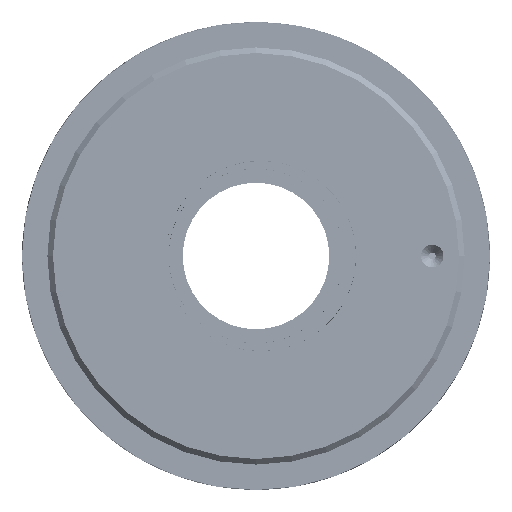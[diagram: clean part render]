
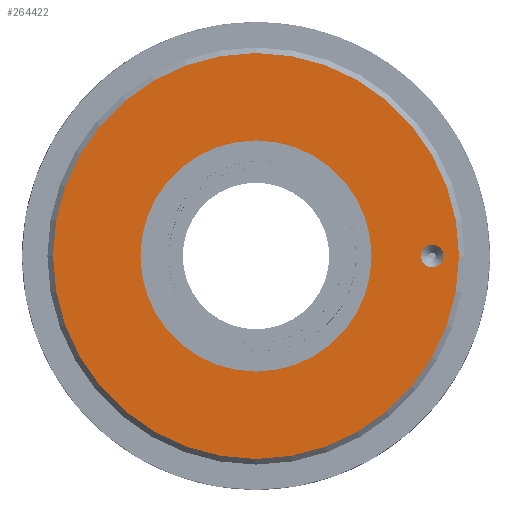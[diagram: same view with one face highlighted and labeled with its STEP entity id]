
A CAD part, left-side view. The second image highlights one B-rep face of the part: STEP entity #264422.
In plain terms, the highlighted planar face has unit normal (-1, 0, 0).
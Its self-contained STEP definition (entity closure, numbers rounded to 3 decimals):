
#182=FACE_BOUND('',#26754,.T.);
#183=FACE_BOUND('',#26755,.T.);
#2422=PLANE('',#280094);
#14247=FACE_OUTER_BOUND('',#26753,.T.);
#26753=EDGE_LOOP('',(#193311));
#26754=EDGE_LOOP('',(#193312));
#26755=EDGE_LOOP('',(#193313));
#106755=CIRCLE('',#280090,41.);
#106757=CIRCLE('',#280095,72.);
#106758=CIRCLE('',#280096,4.);
#116873=VERTEX_POINT('',#382587);
#116874=VERTEX_POINT('',#382596);
#116875=VERTEX_POINT('',#382598);
#145686=EDGE_CURVE('',#116873,#116873,#106755,.T.);
#145690=EDGE_CURVE('',#116874,#116874,#106757,.T.);
#145691=EDGE_CURVE('',#116875,#116875,#106758,.T.);
#193311=ORIENTED_EDGE('',*,*,#145690,.F.);
#193312=ORIENTED_EDGE('',*,*,#145691,.T.);
#193313=ORIENTED_EDGE('',*,*,#145686,.T.);
#264422=ADVANCED_FACE('',(#14247,#182,#183),#2422,.T.);
#280090=AXIS2_PLACEMENT_3D('',#382589,#312523,#312524);
#280094=AXIS2_PLACEMENT_3D('',#382595,#312533,#312534);
#280095=AXIS2_PLACEMENT_3D('',#382597,#312535,#312536);
#280096=AXIS2_PLACEMENT_3D('',#382599,#312537,#312538);
#312523=DIRECTION('center_axis',(1.,0.,0.));
#312524=DIRECTION('ref_axis',(0.,0.,
1.));
#312533=DIRECTION('center_axis',(-1.,0.,0.));
#312534=DIRECTION('ref_axis',(0.,0.,
-1.));
#312535=DIRECTION('center_axis',(1.,0.,0.));
#312536=DIRECTION('ref_axis',(0.,1.,0.));
#312537=DIRECTION('center_axis',(1.,0.,0.));
#312538=DIRECTION('ref_axis',(0.,-1.,0.));
#382587=CARTESIAN_POINT('',(-15.25,53.259,0.));
#382589=CARTESIAN_POINT('Origin',(-15.25,12.259,0.));
#382595=CARTESIAN_POINT('Origin',(-15.25,-61.741,0.));
#382596=CARTESIAN_POINT('',(-15.25,-59.741,0.));
#382597=CARTESIAN_POINT('Origin',(-15.25,12.259,0.));
#382598=CARTESIAN_POINT('',(-15.25,-46.241,0.));
#382599=CARTESIAN_POINT('Origin',(-15.25,-50.241,0.));
